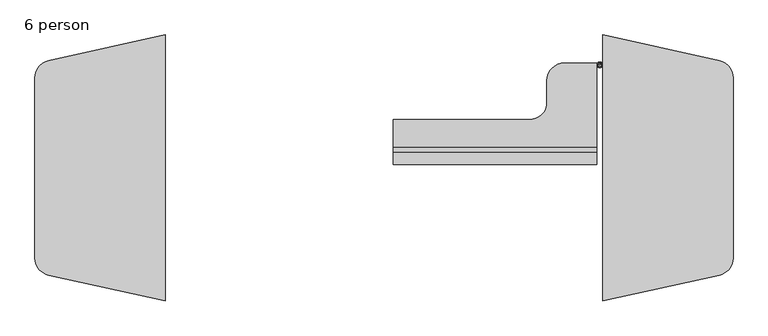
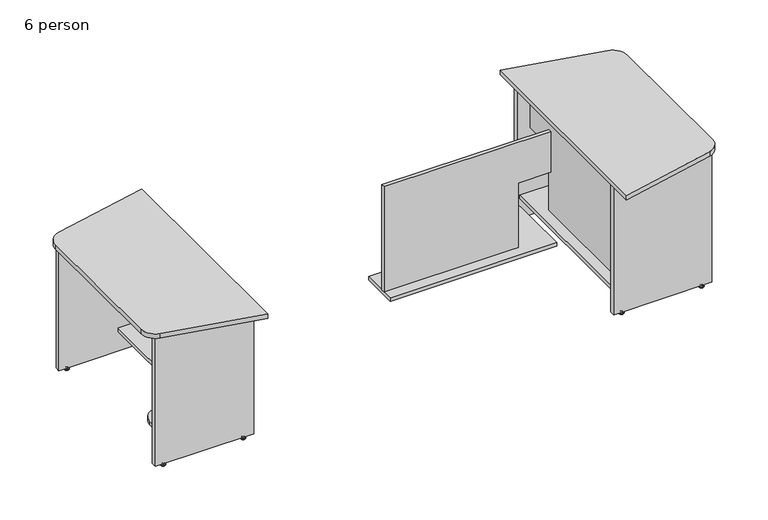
"""IFC4 building model written with IfcOpenShell, lengths in millimetres: furniture geometry, Nova Solutions - Collaboration Table - Boat_4-6 person : 6 person."""

from ifc_helpers import new_model, si_unit, point, frame, frame_2d, origin, place, context, project, spatial, polyline, circle_curve, ellipse_curve, trimmed, segment, composite_curve, outline, extrude, source, transform, mapped, element, save
from ifc_brep_helpers import plane_surface, cylinder_surface, revolved_surface, advanced_brep


def furniture_6_person_6b015cb4(model_context):
    return source(origin(), model_context, "Body", "SolidModel", [
        extrude(outline(polyline([(-430.1, 145.5), (-430.1, 736.3), (430.1, 736.3), (430.1, 507.4), (259.1, 507.4), (259.1, 145.5), (-430.1, 145.5)])), frame((995.2235048, 0.0, 0.0), z_axis=(1.0, 0.0, 0.0), x_axis=(0.0, 1.0, 0.0)), (0.0, 0.0, 1.0), 19.2),
        extrude(outline(composite_curve([segment(polyline([(939.9235048, -430.1), (939.9235048, 430.1), (1383.0860048, 430.1), (1383.0860048, 290.3)]), True, "CONTINUOUS"), segment(trimmed(circle_curve(frame_2d((1306.8860048, 290.3)), 76.2), [point((1383.0860048, 290.3))], [point((1306.8860048, 214.1))], False, "CARTESIAN"), True, "CONTINUOUS"), segment(polyline([(1306.8860048, 214.1), (1212.4235048, 214.1)]), True, "CONTINUOUS"), segment(trimmed(circle_curve(frame_2d((1212.4235048, 137.9)), 76.2), [point((1212.4235048, 214.1))], [point((1136.2235048, 137.9))], True, "CARTESIAN"), True, "CONTINUOUS"), segment(polyline([(1136.2235048, 137.9), (1136.2235048, -430.1), (939.9235048, -430.1)]), True, "CONTINUOUS")], self_intersect=False)), frame((0.0, 0.0, 126.3), z_axis=(0.0, 0.0, 1.0), x_axis=(1.0, 0.0, 0.0)), (0.0, 0.0, 1.0), 19.2),
        advanced_brep(
        [(1400.5094423, -449.6276506, 11.1125), (1400.5094423, -442.95, 11.1125), (1400.5094423, -436.2723494, 11.1125), (1400.5094423, -449.6276506, 9.525), (1400.5094423, -436.2723494, 9.525), (1400.5094423, -454.8355135, 4.7748687), (1400.5094423, -431.0644865, 4.7748687), (1400.5094423, -455.6966506, 3.989419), (1400.5094423, -430.2033494, 3.989419), (1400.5094423, -455.6966506, 3.175), (1400.5094423, -430.2033494, 3.175), (1400.5094423, -454.845912, 0.0), (1400.5094423, -431.0540881, 0.0), (1400.5094423, -442.95, 0.0)],
        [
            (0, 1),
            (1, 2),
            (2, 0, circle_curve(frame((1400.5094423, -442.95, 11.1125), z_axis=(0.0, 0.0, 1.0), x_axis=(0.0, 1.0, 0.0)), 6.6776506)),
            (0, 2, circle_curve(frame((1400.5094423, -442.95, 11.1125), z_axis=(0.0, 0.0, 1.0), x_axis=(0.0, 1.0, 0.0)), 6.6776506)),
            (3, 0),
            (2, 4),
            (4, 3, circle_curve(frame((1400.5094423, -442.95, 9.525), z_axis=(0.0, 0.0, 1.0), x_axis=(0.0, 1.0, 0.0)), 6.6776506)),
            (3, 4, circle_curve(frame((1400.5094423, -442.95, 9.525), z_axis=(0.0, 0.0, 1.0), x_axis=(0.0, 1.0, 0.0)), 6.6776506)),
            (5, 3, circle_curve(frame((1400.5094423, -455.8820627, 11.1521822), z_axis=(1.0, 0.0, 0.0), x_axis=(0.0, 1.0, 0.0)), 6.462615)),
            (4, 6, circle_curve(frame((1400.5094423, -430.0179373, 11.1521822), z_axis=(1.0, 0.0, 0.0), x_axis=(0.0, -1.0, 0.0)), 6.462615)),
            (6, 5, circle_curve(frame((1400.5094423, -442.95, 4.7748687), z_axis=(0.0, 0.0, 1.0), x_axis=(0.0, 1.0, 0.0)), 11.8855135)),
            (5, 6, circle_curve(frame((1400.5094423, -442.95, 4.7748687), z_axis=(0.0, 0.0, 1.0), x_axis=(0.0, 1.0, 0.0)), 11.8855135)),
            (7, 5, circle_curve(frame((1400.5094423, -454.6624632, 3.7203591), z_axis=(-1.0, 0.0, 0.0), x_axis=(0.0, 1.0, 0.0)), 1.0686145)),
            (6, 8, circle_curve(frame((1400.5094423, -431.2375368, 3.7203591), z_axis=(-1.0, 0.0, 0.0), x_axis=(0.0, -1.0, 0.0)), 1.0686145)),
            (8, 7, circle_curve(frame((1400.5094423, -442.95, 3.989419), z_axis=(0.0, 0.0, 1.0), x_axis=(0.0, 1.0, 0.0)), 12.7466506)),
            (7, 8, circle_curve(frame((1400.5094423, -442.95, 3.989419), z_axis=(0.0, 0.0, 1.0), x_axis=(0.0, 1.0, 0.0)), 12.7466506)),
            (9, 7),
            (8, 10),
            (10, 9, circle_curve(frame((1400.5094423, -442.95, 3.175), z_axis=(0.0, 0.0, 1.0), x_axis=(0.0, 1.0, 0.0)), 12.7466506)),
            (9, 10, circle_curve(frame((1400.5094423, -442.95, 3.175), z_axis=(0.0, 0.0, 1.0), x_axis=(0.0, 1.0, 0.0)), 12.7466506)),
            (11, 9),
            (10, 12),
            (12, 11, circle_curve(frame((1400.5094423, -442.95, 0.0), z_axis=(0.0, 0.0, 1.0), x_axis=(0.0, 1.0, 0.0)), 11.8959119)),
            (11, 12, circle_curve(frame((1400.5094423, -442.95, 0.0), z_axis=(0.0, 0.0, 1.0), x_axis=(0.0, 1.0, 0.0)), 11.8959119)),
            (13, 11),
            (12, 13),
        ],
        [
            plane_surface(frame((1400.5094423, -442.95, 11.1125), z_axis=(0.0, 0.0, 1.0), x_axis=(0.0, 1.0, 0.0))),
            cylinder_surface(frame((1400.5094423, -442.95, 43.2095994), z_axis=(0.0, 0.0, -1.0), x_axis=(0.0, 1.0, 0.0)), 6.6776506),
            revolved_surface(trimmed(ellipse_curve(frame((1400.5094423, -430.0179373, 11.1521822), z_axis=(1.0, 0.0, 0.0), x_axis=(0.0, -1.0, 0.0)), 6.462615, 6.462615), [point((1400.5094423, -436.2723494, 9.525))], [point((1400.5094423, -431.0644865, 4.7748687))], True, "CARTESIAN"), (1400.5094423, -442.95, 43.2095994), (0.0, 0.0, -1.0)),
            revolved_surface(trimmed(ellipse_curve(frame((1400.5094423, -431.2375368, 3.7203591), z_axis=(-1.0, 0.0, 0.0), x_axis=(0.0, -1.0, 0.0)), 1.0686145, 1.0686145), [point((1400.5094423, -431.0644865, 4.7748687))], [point((1400.5094423, -430.2033494, 3.989419))], True, "CARTESIAN"), (1400.5094423, -442.95, 43.2095994), (0.0, 0.0, -1.0)),
            cylinder_surface(frame((1400.5094423, -442.95, 43.2095994), z_axis=(0.0, 0.0, -1.0), x_axis=(0.0, 1.0, 0.0)), 12.7466506),
            revolved_surface(polyline([(1400.5094423, -430.2033494, 3.175), (1400.5094423, -431.0540881, 0.0)]), (1400.5094423, -442.95, 43.2095994), (0.0, 0.0, -1.0)),
            plane_surface(frame((1400.5094423, -442.95, 0.0), z_axis=(0.0, 0.0, -1.0), x_axis=(0.0, 1.0, 0.0))),
        ],
        [
            (0, [[1, 2, 3]]),
            (0, [[-2, -1, 4]]),
            (1, [[5, -3, 6, 7]]),
            (1, [[-6, -4, -5, 8]]),
            (2, [[9, -7, 10, 11]]),
            (2, [[-10, -8, -9, 12]]),
            (3, [[13, -11, 14, 15]]),
            (3, [[-14, -12, -13, 16]]),
            (4, [[17, -15, 18, 19]]),
            (4, [[-18, -16, -17, 20]]),
            (5, [[21, -19, 22, 23]]),
            (5, [[-22, -20, -21, 24]]),
            (6, [[25, -23, 26]]),
            (6, [[-26, -24, -25]]),
        ],
    ),
        advanced_brep(
        [(976.2375673, -449.6276506, 11.1125), (976.2375673, -442.95, 11.1125), (976.2375673, -436.2723494, 11.1125), (976.2375673, -449.6276506, 9.525), (976.2375673, -436.2723494, 9.525), (976.2375673, -454.8355135, 4.7748687), (976.2375673, -431.0644865, 4.7748687), (976.2375673, -455.6966506, 3.989419), (976.2375673, -430.2033494, 3.989419), (976.2375673, -455.6966506, 3.175), (976.2375673, -430.2033494, 3.175), (976.2375673, -454.845912, 0.0), (976.2375673, -431.0540881, 0.0), (976.2375673, -442.95, 0.0)],
        [
            (0, 1),
            (1, 2),
            (2, 0, circle_curve(frame((976.2375673, -442.95, 11.1125), z_axis=(0.0, 0.0, 1.0), x_axis=(0.0, 1.0, 0.0)), 6.6776506)),
            (0, 2, circle_curve(frame((976.2375673, -442.95, 11.1125), z_axis=(0.0, 0.0, 1.0), x_axis=(0.0, 1.0, 0.0)), 6.6776506)),
            (3, 0),
            (2, 4),
            (4, 3, circle_curve(frame((976.2375673, -442.95, 9.525), z_axis=(0.0, 0.0, 1.0), x_axis=(0.0, 1.0, 0.0)), 6.6776506)),
            (3, 4, circle_curve(frame((976.2375673, -442.95, 9.525), z_axis=(0.0, 0.0, 1.0), x_axis=(0.0, 1.0, 0.0)), 6.6776506)),
            (5, 3, circle_curve(frame((976.2375673, -455.8820627, 11.1521822), z_axis=(1.0, 0.0, 0.0), x_axis=(0.0, 1.0, 0.0)), 6.462615)),
            (4, 6, circle_curve(frame((976.2375673, -430.0179373, 11.1521822), z_axis=(1.0, 0.0, 0.0), x_axis=(0.0, -1.0, 0.0)), 6.462615)),
            (6, 5, circle_curve(frame((976.2375673, -442.95, 4.7748687), z_axis=(0.0, 0.0, 1.0), x_axis=(0.0, 1.0, 0.0)), 11.8855135)),
            (5, 6, circle_curve(frame((976.2375673, -442.95, 4.7748687), z_axis=(0.0, 0.0, 1.0), x_axis=(0.0, 1.0, 0.0)), 11.8855135)),
            (7, 5, circle_curve(frame((976.2375673, -454.6624632, 3.7203591), z_axis=(-1.0, 0.0, 0.0), x_axis=(0.0, 1.0, 0.0)), 1.0686145)),
            (6, 8, circle_curve(frame((976.2375673, -431.2375368, 3.7203591), z_axis=(-1.0, 0.0, 0.0), x_axis=(0.0, -1.0, 0.0)), 1.0686145)),
            (8, 7, circle_curve(frame((976.2375673, -442.95, 3.989419), z_axis=(0.0, 0.0, 1.0), x_axis=(0.0, 1.0, 0.0)), 12.7466506)),
            (7, 8, circle_curve(frame((976.2375673, -442.95, 3.989419), z_axis=(0.0, 0.0, 1.0), x_axis=(0.0, 1.0, 0.0)), 12.7466506)),
            (9, 7),
            (8, 10),
            (10, 9, circle_curve(frame((976.2375673, -442.95, 3.175), z_axis=(0.0, 0.0, 1.0), x_axis=(0.0, 1.0, 0.0)), 12.7466506)),
            (9, 10, circle_curve(frame((976.2375673, -442.95, 3.175), z_axis=(0.0, 0.0, 1.0), x_axis=(0.0, 1.0, 0.0)), 12.7466506)),
            (11, 9),
            (10, 12),
            (12, 11, circle_curve(frame((976.2375673, -442.95, 0.0), z_axis=(0.0, 0.0, 1.0), x_axis=(0.0, 1.0, 0.0)), 11.8959119)),
            (11, 12, circle_curve(frame((976.2375673, -442.95, 0.0), z_axis=(0.0, 0.0, 1.0), x_axis=(0.0, 1.0, 0.0)), 11.8959119)),
            (13, 11),
            (12, 13),
        ],
        [
            plane_surface(frame((976.2375673, -442.95, 11.1125), z_axis=(0.0, 0.0, 1.0), x_axis=(0.0, 1.0, 0.0))),
            cylinder_surface(frame((976.2375673, -442.95, 43.2095994), z_axis=(0.0, 0.0, -1.0), x_axis=(0.0, 1.0, 0.0)), 6.6776506),
            revolved_surface(trimmed(ellipse_curve(frame((976.2375673, -430.0179373, 11.1521822), z_axis=(1.0, 0.0, 0.0), x_axis=(0.0, -1.0, 0.0)), 6.462615, 6.462615), [point((976.2375673, -436.2723494, 9.525))], [point((976.2375673, -431.0644865, 4.7748687))], True, "CARTESIAN"), (976.2375673, -442.95, 43.2095994), (0.0, 0.0, -1.0)),
            revolved_surface(trimmed(ellipse_curve(frame((976.2375673, -431.2375368, 3.7203591), z_axis=(-1.0, 0.0, 0.0), x_axis=(0.0, -1.0, 0.0)), 1.0686145, 1.0686145), [point((976.2375673, -431.0644865, 4.7748687))], [point((976.2375673, -430.2033494, 3.989419))], True, "CARTESIAN"), (976.2375673, -442.95, 43.2095994), (0.0, 0.0, -1.0)),
            cylinder_surface(frame((976.2375673, -442.95, 43.2095994), z_axis=(0.0, 0.0, -1.0), x_axis=(0.0, 1.0, 0.0)), 12.7466506),
            revolved_surface(polyline([(976.2375673, -430.2033494, 3.175), (976.2375673, -431.0540881, 0.0)]), (976.2375673, -442.95, 43.2095994), (0.0, 0.0, -1.0)),
            plane_surface(frame((976.2375673, -442.95, 0.0), z_axis=(0.0, 0.0, -1.0), x_axis=(0.0, 1.0, 0.0))),
        ],
        [
            (0, [[1, 2, 3]]),
            (0, [[-2, -1, 4]]),
            (1, [[5, -3, 6, 7]]),
            (1, [[-6, -4, -5, 8]]),
            (2, [[9, -7, 10, 11]]),
            (2, [[-10, -8, -9, 12]]),
            (3, [[13, -11, 14, 15]]),
            (3, [[-14, -12, -13, 16]]),
            (4, [[17, -15, 18, 19]]),
            (4, [[-18, -16, -17, 20]]),
            (5, [[21, -19, 22, 23]]),
            (5, [[-22, -20, -21, 24]]),
            (6, [[25, -23, 26]]),
            (6, [[-26, -24, -25]]),
        ],
    ),
        extrude(outline(polyline([(927.2235048, -455.8), (927.2235048, -430.1), (1449.5235048, -430.1), (1449.5235048, -455.8), (927.2235048, -455.8)])), frame((0.0, 0.0, 15.6), z_axis=(0.0, 0.0, 1.0), x_axis=(1.0, 0.0, 0.0)), (0.0, 0.0, 1.0), 720.7),
        advanced_brep(
        [(1400.5094423, 449.6276506, 11.1125), (1400.5094423, 436.2723494, 11.1125), (1400.5094423, 442.95, 11.1125), (1400.5094423, 449.6276506, 9.525), (1400.5094423, 436.2723494, 9.525), (1400.5094423, 454.8355135, 4.7748687), (1400.5094423, 431.0644865, 4.7748687), (1400.5094423, 455.6966506, 3.989419), (1400.5094423, 430.2033494, 3.989419), (1400.5094423, 455.6966506, 3.175), (1400.5094423, 430.2033494, 3.175), (1400.5094423, 454.8459119, 0.0), (1400.5094423, 431.054088, 0.0), (1400.5094423, 442.95, 0.0)],
        [
            (0, 1, circle_curve(frame((1400.5094423, 442.95, 11.1125), z_axis=(0.0, 0.0, 1.0), x_axis=(0.0, -1.0, 0.0)), 6.6776506)),
            (1, 2),
            (2, 0),
            (1, 0, circle_curve(frame((1400.5094423, 442.95, 11.1125), z_axis=(0.0, 0.0, 1.0), x_axis=(0.0, -1.0, 0.0)), 6.6776506)),
            (3, 4, circle_curve(frame((1400.5094423, 442.95, 9.525), z_axis=(0.0, 0.0, 1.0), x_axis=(0.0, -1.0, 0.0)), 6.6776506)),
            (4, 1),
            (0, 3),
            (4, 3, circle_curve(frame((1400.5094423, 442.95, 9.525), z_axis=(0.0, 0.0, 1.0), x_axis=(0.0, -1.0, 0.0)), 6.6776506)),
            (5, 6, circle_curve(frame((1400.5094423, 442.95, 4.7748687), z_axis=(0.0, 0.0, 1.0), x_axis=(0.0, -1.0, 0.0)), 11.8855135)),
            (6, 4, circle_curve(frame((1400.5094423, 430.0179373, 11.1521822), z_axis=(1.0, 0.0, 0.0), x_axis=(0.0, 1.0, 0.0)), 6.462615)),
            (3, 5, circle_curve(frame((1400.5094423, 455.8820627, 11.1521822), z_axis=(1.0, 0.0, 0.0), x_axis=(0.0, -1.0, 0.0)), 6.462615)),
            (6, 5, circle_curve(frame((1400.5094423, 442.95, 4.7748687), z_axis=(0.0, 0.0, 1.0), x_axis=(0.0, -1.0, 0.0)), 11.8855135)),
            (7, 8, circle_curve(frame((1400.5094423, 442.95, 3.989419), z_axis=(0.0, 0.0, 1.0), x_axis=(0.0, -1.0, 0.0)), 12.7466506)),
            (8, 6, circle_curve(frame((1400.5094423, 431.2375368, 3.7203591), z_axis=(-1.0, 0.0, 0.0), x_axis=(0.0, 1.0, 0.0)), 1.0686145)),
            (5, 7, circle_curve(frame((1400.5094423, 454.6624632, 3.7203591), z_axis=(-1.0, 0.0, 0.0), x_axis=(0.0, -1.0, 0.0)), 1.0686145)),
            (8, 7, circle_curve(frame((1400.5094423, 442.95, 3.989419), z_axis=(0.0, 0.0, 1.0), x_axis=(0.0, -1.0, 0.0)), 12.7466506)),
            (9, 10, circle_curve(frame((1400.5094423, 442.95, 3.175), z_axis=(0.0, 0.0, 1.0), x_axis=(0.0, -1.0, 0.0)), 12.7466506)),
            (10, 8),
            (7, 9),
            (10, 9, circle_curve(frame((1400.5094423, 442.95, 3.175), z_axis=(0.0, 0.0, 1.0), x_axis=(0.0, -1.0, 0.0)), 12.7466506)),
            (11, 12, circle_curve(frame((1400.5094423, 442.95, 0.0), z_axis=(0.0, 0.0, 1.0), x_axis=(0.0, -1.0, 0.0)), 11.8959119)),
            (12, 10),
            (9, 11),
            (12, 11, circle_curve(frame((1400.5094423, 442.95, 0.0), z_axis=(0.0, 0.0, 1.0), x_axis=(0.0, -1.0, 0.0)), 11.8959119)),
            (13, 12),
            (11, 13),
        ],
        [
            plane_surface(frame((1400.5094423, 442.95, 11.1125), z_axis=(0.0, 0.0, 1.0), x_axis=(0.0, -1.0, 0.0))),
            cylinder_surface(frame((1400.5094423, 442.95, 43.2095994), z_axis=(0.0, 0.0, -1.0), x_axis=(0.0, -1.0, 0.0)), 6.6776506),
            revolved_surface(trimmed(ellipse_curve(frame((1400.5094423, 430.0179373, 11.1521822), z_axis=(-1.0, 0.0, 0.0), x_axis=(0.0, 1.0, 0.0)), 6.462615, 6.462615), [point((1400.5094423, 436.2723494, 9.525))], [point((1400.5094423, 431.0644865, 4.7748687))], True, "CARTESIAN"), (1400.5094423, 442.95, 43.2095994), (0.0, 0.0, -1.0)),
            revolved_surface(trimmed(ellipse_curve(frame((1400.5094423, 431.2375368, 3.7203591), z_axis=(1.0, 0.0, 0.0), x_axis=(0.0, 1.0, 0.0)), 1.0686145, 1.0686145), [point((1400.5094423, 431.0644865, 4.7748687))], [point((1400.5094423, 430.2033494, 3.989419))], True, "CARTESIAN"), (1400.5094423, 442.95, 43.2095994), (0.0, 0.0, -1.0)),
            cylinder_surface(frame((1400.5094423, 442.95, 43.2095994), z_axis=(0.0, 0.0, -1.0), x_axis=(0.0, -1.0, 0.0)), 12.7466506),
            revolved_surface(polyline([(1400.5094423, 430.2033494, 3.175), (1400.5094423, 431.054088, 0.0)]), (1400.5094423, 442.95, 43.2095994), (0.0, 0.0, -1.0)),
            plane_surface(frame((1400.5094423, 442.95, 0.0), z_axis=(0.0, 0.0, -1.0), x_axis=(0.0, -1.0, 0.0))),
        ],
        [
            (0, [[1, 2, 3]]),
            (0, [[4, -3, -2]]),
            (1, [[5, 6, -1, 7]]),
            (1, [[8, -7, -4, -6]]),
            (2, [[9, 10, -5, 11]]),
            (2, [[12, -11, -8, -10]]),
            (3, [[13, 14, -9, 15]]),
            (3, [[16, -15, -12, -14]]),
            (4, [[17, 18, -13, 19]]),
            (4, [[20, -19, -16, -18]]),
            (5, [[21, 22, -17, 23]]),
            (5, [[24, -23, -20, -22]]),
            (6, [[25, -21, 26]]),
            (6, [[-26, -24, -25]]),
        ],
    ),
        advanced_brep(
        [(976.2375673, 449.6276506, 11.1125), (976.2375673, 436.2723494, 11.1125), (976.2375673, 442.95, 11.1125), (976.2375673, 449.6276506, 9.525), (976.2375673, 436.2723494, 9.525), (976.2375673, 454.8355135, 4.7748687), (976.2375673, 431.0644865, 4.7748687), (976.2375673, 455.6966506, 3.989419), (976.2375673, 430.2033494, 3.989419), (976.2375673, 455.6966506, 3.175), (976.2375673, 430.2033494, 3.175), (976.2375673, 454.8459119, 0.0), (976.2375673, 431.054088, 0.0), (976.2375673, 442.95, 0.0)],
        [
            (0, 1, circle_curve(frame((976.2375673, 442.95, 11.1125), z_axis=(0.0, 0.0, 1.0), x_axis=(0.0, -1.0, 0.0)), 6.6776506)),
            (1, 2),
            (2, 0),
            (1, 0, circle_curve(frame((976.2375673, 442.95, 11.1125), z_axis=(0.0, 0.0, 1.0), x_axis=(0.0, -1.0, 0.0)), 6.6776506)),
            (3, 4, circle_curve(frame((976.2375673, 442.95, 9.525), z_axis=(0.0, 0.0, 1.0), x_axis=(0.0, -1.0, 0.0)), 6.6776506)),
            (4, 1),
            (0, 3),
            (4, 3, circle_curve(frame((976.2375673, 442.95, 9.525), z_axis=(0.0, 0.0, 1.0), x_axis=(0.0, -1.0, 0.0)), 6.6776506)),
            (5, 6, circle_curve(frame((976.2375673, 442.95, 4.7748687), z_axis=(0.0, 0.0, 1.0), x_axis=(0.0, -1.0, 0.0)), 11.8855135)),
            (6, 4, circle_curve(frame((976.2375673, 430.0179373, 11.1521822), z_axis=(1.0, 0.0, 0.0), x_axis=(0.0, 1.0, 0.0)), 6.462615)),
            (3, 5, circle_curve(frame((976.2375673, 455.8820627, 11.1521822), z_axis=(1.0, 0.0, 0.0), x_axis=(0.0, -1.0, 0.0)), 6.462615)),
            (6, 5, circle_curve(frame((976.2375673, 442.95, 4.7748687), z_axis=(0.0, 0.0, 1.0), x_axis=(0.0, -1.0, 0.0)), 11.8855135)),
            (7, 8, circle_curve(frame((976.2375673, 442.95, 3.989419), z_axis=(0.0, 0.0, 1.0), x_axis=(0.0, -1.0, 0.0)), 12.7466506)),
            (8, 6, circle_curve(frame((976.2375673, 431.2375368, 3.7203591), z_axis=(-1.0, 0.0, 0.0), x_axis=(0.0, 1.0, 0.0)), 1.0686145)),
            (5, 7, circle_curve(frame((976.2375673, 454.6624632, 3.7203591), z_axis=(-1.0, 0.0, 0.0), x_axis=(0.0, -1.0, 0.0)), 1.0686145)),
            (8, 7, circle_curve(frame((976.2375673, 442.95, 3.989419), z_axis=(0.0, 0.0, 1.0), x_axis=(0.0, -1.0, 0.0)), 12.7466506)),
            (9, 10, circle_curve(frame((976.2375673, 442.95, 3.175), z_axis=(0.0, 0.0, 1.0), x_axis=(0.0, -1.0, 0.0)), 12.7466506)),
            (10, 8),
            (7, 9),
            (10, 9, circle_curve(frame((976.2375673, 442.95, 3.175), z_axis=(0.0, 0.0, 1.0), x_axis=(0.0, -1.0, 0.0)), 12.7466506)),
            (11, 12, circle_curve(frame((976.2375673, 442.95, 0.0), z_axis=(0.0, 0.0, 1.0), x_axis=(0.0, -1.0, 0.0)), 11.8959119)),
            (12, 10),
            (9, 11),
            (12, 11, circle_curve(frame((976.2375673, 442.95, 0.0), z_axis=(0.0, 0.0, 1.0), x_axis=(0.0, -1.0, 0.0)), 11.8959119)),
            (13, 12),
            (11, 13),
        ],
        [
            plane_surface(frame((976.2375673, 442.95, 11.1125), z_axis=(0.0, 0.0, 1.0), x_axis=(0.0, -1.0, 0.0))),
            cylinder_surface(frame((976.2375673, 442.95, 43.2095994), z_axis=(0.0, 0.0, -1.0), x_axis=(0.0, -1.0, 0.0)), 6.6776506),
            revolved_surface(trimmed(ellipse_curve(frame((976.2375673, 430.0179373, 11.1521822), z_axis=(-1.0, 0.0, 0.0), x_axis=(0.0, 1.0, 0.0)), 6.462615, 6.462615), [point((976.2375673, 436.2723494, 9.525))], [point((976.2375673, 431.0644865, 4.7748687))], True, "CARTESIAN"), (976.2375673, 442.95, 43.2095994), (0.0, 0.0, -1.0)),
            revolved_surface(trimmed(ellipse_curve(frame((976.2375673, 431.2375368, 3.7203591), z_axis=(1.0, 0.0, 0.0), x_axis=(0.0, 1.0, 0.0)), 1.0686145, 1.0686145), [point((976.2375673, 431.0644865, 4.7748687))], [point((976.2375673, 430.2033494, 3.989419))], True, "CARTESIAN"), (976.2375673, 442.95, 43.2095994), (0.0, 0.0, -1.0)),
            cylinder_surface(frame((976.2375673, 442.95, 43.2095994), z_axis=(0.0, 0.0, -1.0), x_axis=(0.0, -1.0, 0.0)), 12.7466506),
            revolved_surface(polyline([(976.2375673, 430.2033494, 3.175), (976.2375673, 431.054088, 0.0)]), (976.2375673, 442.95, 43.2095994), (0.0, 0.0, -1.0)),
            plane_surface(frame((976.2375673, 442.95, 0.0), z_axis=(0.0, 0.0, -1.0), x_axis=(0.0, -1.0, 0.0))),
        ],
        [
            (0, [[1, 2, 3]]),
            (0, [[4, -3, -2]]),
            (1, [[5, 6, -1, 7]]),
            (1, [[8, -7, -4, -6]]),
            (2, [[9, 10, -5, 11]]),
            (2, [[12, -11, -8, -10]]),
            (3, [[13, 14, -9, 15]]),
            (3, [[16, -15, -12, -14]]),
            (4, [[17, 18, -13, 19]]),
            (4, [[20, -19, -16, -18]]),
            (5, [[21, 22, -17, 23]]),
            (5, [[24, -23, -20, -22]]),
            (6, [[25, -21, 26]]),
            (6, [[-26, -24, -25]]),
        ],
    ),
        extrude(outline(polyline([(927.2235048, 455.8), (1449.5235048, 455.8), (1449.5235048, 430.1), (927.2235048, 430.1), (927.2235048, 455.8)])), frame((0.0, 0.0, 15.6), z_axis=(0.0, 0.0, 1.0), x_axis=(1.0, 0.0, 0.0)), (0.0, 0.0, 1.0), 720.7),
        extrude(outline(composite_curve([segment(polyline([(924.3235048, -579.5), (924.3235048, 579.5), (1429.989355, 467.3965799)]), True, "CONTINUOUS"), segment(trimmed(circle_curve(frame_2d((1413.3235048, 392.2217874)), 77.0), [point((1429.989355, 467.3965799))], [point((1490.3235048, 392.2217874))], False, "CARTESIAN"), True, "CONTINUOUS"), segment(polyline([(1490.3235048, 392.2217874), (1490.3235048, -392.2217874)]), True, "CONTINUOUS"), segment(trimmed(circle_curve(frame_2d((1413.3235048, -392.2217874)), 77.0), [point((1490.3235048, -392.2217874))], [point((1429.989355, -467.3965799))], False, "CARTESIAN"), True, "CONTINUOUS"), segment(polyline([(1429.989355, -467.3965799), (924.3235048, -579.5)]), True, "CONTINUOUS")], self_intersect=False)), frame((0.0, 0.0, 736.3), z_axis=(0.0, 0.0, 1.0), x_axis=(1.0, 0.0, 0.0)), (0.0, 0.0, 1.0), 25.7),
        extrude(outline(polyline([(430.1, 736.3), (430.1, 145.5), (-259.1, 145.5), (-259.1, 507.4), (-430.1, 507.4), (-430.1, 736.3), (430.1, 736.3)])), frame((-1069.3498676, 0.0, 0.0), z_axis=(1.0, 0.0, 0.0), x_axis=(0.0, 1.0, 0.0)), (0.0, 0.0, 1.0), 19.2),
        extrude(outline(composite_curve([segment(polyline([(-994.8498676, 430.1), (-994.8498676, -430.1), (-1438.0123676, -430.1), (-1438.0123676, -290.3)]), True, "CONTINUOUS"), segment(trimmed(circle_curve(frame_2d((-1361.8123676, -290.3)), 76.2), [point((-1438.0123676, -290.3))], [point((-1361.8123676, -214.1))], False, "CARTESIAN"), True, "CONTINUOUS"), segment(polyline([(-1361.8123676, -214.1), (-1267.3498676, -214.1)]), True, "CONTINUOUS"), segment(trimmed(circle_curve(frame_2d((-1267.3498676, -137.9)), 76.2), [point((-1267.3498676, -214.1))], [point((-1191.1498676, -137.9))], True, "CARTESIAN"), True, "CONTINUOUS"), segment(polyline([(-1191.1498676, -137.9), (-1191.1498676, 430.1), (-994.8498676, 430.1)]), True, "CONTINUOUS")], self_intersect=False)), frame((0.0, 0.0, 126.3), z_axis=(0.0, 0.0, 1.0), x_axis=(1.0, 0.0, 0.0)), (0.0, 0.0, 1.0), 19.2),
        advanced_brep(
        [(-1455.4358051, 449.6276506, 11.1125), (-1455.4358051, 442.95, 11.1125), (-1455.4358051, 436.2723494, 11.1125), (-1455.4358051, 449.6276506, 9.525), (-1455.4358051, 436.2723494, 9.525), (-1455.4358051, 454.8355135, 4.7748687), (-1455.4358051, 431.0644865, 4.7748687), (-1455.4358051, 455.6966506, 3.989419), (-1455.4358051, 430.2033494, 3.989419), (-1455.4358051, 455.6966506, 3.175), (-1455.4358051, 430.2033494, 3.175), (-1455.4358051, 454.8459119, 0.0), (-1455.4358051, 431.0540881, 0.0), (-1455.4358051, 442.95, 0.0)],
        [
            (0, 1),
            (1, 2),
            (2, 0, circle_curve(frame((-1455.4358051, 442.95, 11.1125), z_axis=(0.0, 0.0, 1.0), x_axis=(0.0, -1.0, 0.0)), 6.6776506)),
            (0, 2, circle_curve(frame((-1455.4358051, 442.95, 11.1125), z_axis=(0.0, 0.0, 1.0), x_axis=(0.0, -1.0, 0.0)), 6.6776506)),
            (3, 0),
            (2, 4),
            (4, 3, circle_curve(frame((-1455.4358051, 442.95, 9.525), z_axis=(0.0, 0.0, 1.0), x_axis=(0.0, -1.0, 0.0)), 6.6776506)),
            (3, 4, circle_curve(frame((-1455.4358051, 442.95, 9.525), z_axis=(0.0, 0.0, 1.0), x_axis=(0.0, -1.0, 0.0)), 6.6776506)),
            (5, 3, circle_curve(frame((-1455.4358051, 455.8820627, 11.1521822), z_axis=(-1.0, 0.0, 0.0), x_axis=(0.0, -1.0, 0.0)), 6.462615)),
            (4, 6, circle_curve(frame((-1455.4358051, 430.0179373, 11.1521822), z_axis=(-1.0, 0.0, 0.0), x_axis=(0.0, 1.0, 0.0)), 6.462615)),
            (6, 5, circle_curve(frame((-1455.4358051, 442.95, 4.7748687), z_axis=(0.0, 0.0, 1.0), x_axis=(0.0, -1.0, 0.0)), 11.8855135)),
            (5, 6, circle_curve(frame((-1455.4358051, 442.95, 4.7748687), z_axis=(0.0, 0.0, 1.0), x_axis=(0.0, -1.0, 0.0)), 11.8855135)),
            (7, 5, circle_curve(frame((-1455.4358051, 454.6624632, 3.7203591), z_axis=(1.0, 0.0, 0.0), x_axis=(0.0, -1.0, 0.0)), 1.0686145)),
            (6, 8, circle_curve(frame((-1455.4358051, 431.2375368, 3.7203591), z_axis=(1.0, 0.0, 0.0), x_axis=(0.0, 1.0, 0.0)), 1.0686145)),
            (8, 7, circle_curve(frame((-1455.4358051, 442.95, 3.989419), z_axis=(0.0, 0.0, 1.0), x_axis=(0.0, -1.0, 0.0)), 12.7466506)),
            (7, 8, circle_curve(frame((-1455.4358051, 442.95, 3.989419), z_axis=(0.0, 0.0, 1.0), x_axis=(0.0, -1.0, 0.0)), 12.7466506)),
            (9, 7),
            (8, 10),
            (10, 9, circle_curve(frame((-1455.4358051, 442.95, 3.175), z_axis=(0.0, 0.0, 1.0), x_axis=(0.0, -1.0, 0.0)), 12.7466506)),
            (9, 10, circle_curve(frame((-1455.4358051, 442.95, 3.175), z_axis=(0.0, 0.0, 1.0), x_axis=(0.0, -1.0, 0.0)), 12.7466506)),
            (11, 9),
            (10, 12),
            (12, 11, circle_curve(frame((-1455.4358051, 442.95, 0.0), z_axis=(0.0, 0.0, 1.0), x_axis=(0.0, -1.0, 0.0)), 11.8959119)),
            (11, 12, circle_curve(frame((-1455.4358051, 442.95, 0.0), z_axis=(0.0, 0.0, 1.0), x_axis=(0.0, -1.0, 0.0)), 11.8959119)),
            (13, 11),
            (12, 13),
        ],
        [
            plane_surface(frame((-1455.4358051, 442.95, 11.1125), z_axis=(0.0, 0.0, 1.0), x_axis=(0.0, -1.0, 0.0))),
            cylinder_surface(frame((-1455.4358051, 442.95, 43.2095994), z_axis=(0.0, 0.0, -1.0), x_axis=(0.0, -1.0, 0.0)), 6.6776506),
            revolved_surface(trimmed(ellipse_curve(frame((-1455.4358051, 430.0179373, 11.1521822), z_axis=(-1.0, 0.0, 0.0), x_axis=(0.0, 1.0, 0.0)), 6.462615, 6.462615), [point((-1455.4358051, 436.2723494, 9.525))], [point((-1455.4358051, 431.0644865, 4.7748687))], True, "CARTESIAN"), (-1455.4358051, 442.95, 43.2095994), (0.0, 0.0, -1.0)),
            revolved_surface(trimmed(ellipse_curve(frame((-1455.4358051, 431.2375368, 3.7203591), z_axis=(1.0, 0.0, 0.0), x_axis=(0.0, 1.0, 0.0)), 1.0686145, 1.0686145), [point((-1455.4358051, 431.0644865, 4.7748687))], [point((-1455.4358051, 430.2033494, 3.989419))], True, "CARTESIAN"), (-1455.4358051, 442.95, 43.2095994), (0.0, 0.0, -1.0)),
            cylinder_surface(frame((-1455.4358051, 442.95, 43.2095994), z_axis=(0.0, 0.0, -1.0), x_axis=(0.0, -1.0, 0.0)), 12.7466506),
            revolved_surface(polyline([(-1455.4358051, 430.2033494, 3.175), (-1455.4358051, 431.0540881, 0.0)]), (-1455.4358051, 442.95, 43.2095994), (0.0, 0.0, -1.0)),
            plane_surface(frame((-1455.4358051, 442.95, 0.0), z_axis=(0.0, 0.0, -1.0), x_axis=(0.0, -1.0, 0.0))),
        ],
        [
            (0, [[1, 2, 3]]),
            (0, [[-2, -1, 4]]),
            (1, [[5, -3, 6, 7]]),
            (1, [[-6, -4, -5, 8]]),
            (2, [[9, -7, 10, 11]]),
            (2, [[-10, -8, -9, 12]]),
            (3, [[13, -11, 14, 15]]),
            (3, [[-14, -12, -13, 16]]),
            (4, [[17, -15, 18, 19]]),
            (4, [[-18, -16, -17, 20]]),
            (5, [[21, -19, 22, 23]]),
            (5, [[-22, -20, -21, 24]]),
            (6, [[25, -23, 26]]),
            (6, [[-26, -24, -25]]),
        ],
    ),
        advanced_brep(
        [(-1031.1639301, 449.6276506, 11.1125), (-1031.1639301, 442.95, 11.1125), (-1031.1639301, 436.2723494, 11.1125), (-1031.1639301, 449.6276506, 9.525), (-1031.1639301, 436.2723494, 9.525), (-1031.1639301, 454.8355135, 4.7748687), (-1031.1639301, 431.0644865, 4.7748687), (-1031.1639301, 455.6966506, 3.989419), (-1031.1639301, 430.2033494, 3.989419), (-1031.1639301, 455.6966506, 3.175), (-1031.1639301, 430.2033494, 3.175), (-1031.1639301, 454.8459119, 0.0), (-1031.1639301, 431.0540881, 0.0), (-1031.1639301, 442.95, 0.0)],
        [
            (0, 1),
            (1, 2),
            (2, 0, circle_curve(frame((-1031.1639301, 442.95, 11.1125), z_axis=(0.0, 0.0, 1.0), x_axis=(0.0, -1.0, 0.0)), 6.6776506)),
            (0, 2, circle_curve(frame((-1031.1639301, 442.95, 11.1125), z_axis=(0.0, 0.0, 1.0), x_axis=(0.0, -1.0, 0.0)), 6.6776506)),
            (3, 0),
            (2, 4),
            (4, 3, circle_curve(frame((-1031.1639301, 442.95, 9.525), z_axis=(0.0, 0.0, 1.0), x_axis=(0.0, -1.0, 0.0)), 6.6776506)),
            (3, 4, circle_curve(frame((-1031.1639301, 442.95, 9.525), z_axis=(0.0, 0.0, 1.0), x_axis=(0.0, -1.0, 0.0)), 6.6776506)),
            (5, 3, circle_curve(frame((-1031.1639301, 455.8820627, 11.1521822), z_axis=(-1.0, 0.0, 0.0), x_axis=(0.0, -1.0, 0.0)), 6.462615)),
            (4, 6, circle_curve(frame((-1031.1639301, 430.0179373, 11.1521822), z_axis=(-1.0, 0.0, 0.0), x_axis=(0.0, 1.0, 0.0)), 6.462615)),
            (6, 5, circle_curve(frame((-1031.1639301, 442.95, 4.7748687), z_axis=(0.0, 0.0, 1.0), x_axis=(0.0, -1.0, 0.0)), 11.8855135)),
            (5, 6, circle_curve(frame((-1031.1639301, 442.95, 4.7748687), z_axis=(0.0, 0.0, 1.0), x_axis=(0.0, -1.0, 0.0)), 11.8855135)),
            (7, 5, circle_curve(frame((-1031.1639301, 454.6624632, 3.7203591), z_axis=(1.0, 0.0, 0.0), x_axis=(0.0, -1.0, 0.0)), 1.0686145)),
            (6, 8, circle_curve(frame((-1031.1639301, 431.2375368, 3.7203591), z_axis=(1.0, 0.0, 0.0), x_axis=(0.0, 1.0, 0.0)), 1.0686145)),
            (8, 7, circle_curve(frame((-1031.1639301, 442.95, 3.989419), z_axis=(0.0, 0.0, 1.0), x_axis=(0.0, -1.0, 0.0)), 12.7466506)),
            (7, 8, circle_curve(frame((-1031.1639301, 442.95, 3.989419), z_axis=(0.0, 0.0, 1.0), x_axis=(0.0, -1.0, 0.0)), 12.7466506)),
            (9, 7),
            (8, 10),
            (10, 9, circle_curve(frame((-1031.1639301, 442.95, 3.175), z_axis=(0.0, 0.0, 1.0), x_axis=(0.0, -1.0, 0.0)), 12.7466506)),
            (9, 10, circle_curve(frame((-1031.1639301, 442.95, 3.175), z_axis=(0.0, 0.0, 1.0), x_axis=(0.0, -1.0, 0.0)), 12.7466506)),
            (11, 9),
            (10, 12),
            (12, 11, circle_curve(frame((-1031.1639301, 442.95, 0.0), z_axis=(0.0, 0.0, 1.0), x_axis=(0.0, -1.0, 0.0)), 11.8959119)),
            (11, 12, circle_curve(frame((-1031.1639301, 442.95, 0.0), z_axis=(0.0, 0.0, 1.0), x_axis=(0.0, -1.0, 0.0)), 11.8959119)),
            (13, 11),
            (12, 13),
        ],
        [
            plane_surface(frame((-1031.1639301, 442.95, 11.1125), z_axis=(0.0, 0.0, 1.0), x_axis=(0.0, -1.0, 0.0))),
            cylinder_surface(frame((-1031.1639301, 442.95, 43.2095994), z_axis=(0.0, 0.0, -1.0), x_axis=(0.0, -1.0, 0.0)), 6.6776506),
            revolved_surface(trimmed(ellipse_curve(frame((-1031.1639301, 430.0179373, 11.1521822), z_axis=(-1.0, 0.0, 0.0), x_axis=(0.0, 1.0, 0.0)), 6.462615, 6.462615), [point((-1031.1639301, 436.2723494, 9.525))], [point((-1031.1639301, 431.0644865, 4.7748687))], True, "CARTESIAN"), (-1031.1639301, 442.95, 43.2095994), (0.0, 0.0, -1.0)),
            revolved_surface(trimmed(ellipse_curve(frame((-1031.1639301, 431.2375368, 3.7203591), z_axis=(1.0, 0.0, 0.0), x_axis=(0.0, 1.0, 0.0)), 1.0686145, 1.0686145), [point((-1031.1639301, 431.0644865, 4.7748687))], [point((-1031.1639301, 430.2033494, 3.989419))], True, "CARTESIAN"), (-1031.1639301, 442.95, 43.2095994), (0.0, 0.0, -1.0)),
            cylinder_surface(frame((-1031.1639301, 442.95, 43.2095994), z_axis=(0.0, 0.0, -1.0), x_axis=(0.0, -1.0, 0.0)), 12.7466506),
            revolved_surface(polyline([(-1031.1639301, 430.2033494, 3.175), (-1031.1639301, 431.0540881, 0.0)]), (-1031.1639301, 442.95, 43.2095994), (0.0, 0.0, -1.0)),
            plane_surface(frame((-1031.1639301, 442.95, 0.0), z_axis=(0.0, 0.0, -1.0), x_axis=(0.0, -1.0, 0.0))),
        ],
        [
            (0, [[1, 2, 3]]),
            (0, [[-2, -1, 4]]),
            (1, [[5, -3, 6, 7]]),
            (1, [[-6, -4, -5, 8]]),
            (2, [[9, -7, 10, 11]]),
            (2, [[-10, -8, -9, 12]]),
            (3, [[13, -11, 14, 15]]),
            (3, [[-14, -12, -13, 16]]),
            (4, [[17, -15, 18, 19]]),
            (4, [[-18, -16, -17, 20]]),
            (5, [[21, -19, 22, 23]]),
            (5, [[-22, -20, -21, 24]]),
            (6, [[25, -23, 26]]),
            (6, [[-26, -24, -25]]),
        ],
    ),
        extrude(outline(polyline([(-982.1498676, 455.8), (-982.1498676, 430.1), (-1504.4498676, 430.1), (-1504.4498676, 455.8), (-982.1498676, 455.8)])), frame((0.0, 0.0, 15.6), z_axis=(0.0, 0.0, 1.0), x_axis=(1.0, 0.0, 0.0)), (0.0, 0.0, 1.0), 720.7),
        advanced_brep(
        [(-1455.4358051, -449.6276506, 11.1125), (-1455.4358051, -436.2723494, 11.1125), (-1455.4358051, -442.95, 11.1125), (-1455.4358051, -449.6276506, 9.525), (-1455.4358051, -436.2723494, 9.525), (-1455.4358051, -454.8355135, 4.7748687), (-1455.4358051, -431.0644865, 4.7748687), (-1455.4358051, -455.6966506, 3.989419), (-1455.4358051, -430.2033494, 3.989419), (-1455.4358051, -455.6966506, 3.175), (-1455.4358051, -430.2033494, 3.175), (-1455.4358051, -454.8459119, 0.0), (-1455.4358051, -431.0540881, 0.0), (-1455.4358051, -442.95, 0.0)],
        [
            (0, 1, circle_curve(frame((-1455.4358051, -442.95, 11.1125), z_axis=(0.0, 0.0, 1.0), x_axis=(0.0, 1.0, 0.0)), 6.6776506)),
            (1, 2),
            (2, 0),
            (1, 0, circle_curve(frame((-1455.4358051, -442.95, 11.1125), z_axis=(0.0, 0.0, 1.0), x_axis=(0.0, 1.0, 0.0)), 6.6776506)),
            (3, 4, circle_curve(frame((-1455.4358051, -442.95, 9.525), z_axis=(0.0, 0.0, 1.0), x_axis=(0.0, 1.0, 0.0)), 6.6776506)),
            (4, 1),
            (0, 3),
            (4, 3, circle_curve(frame((-1455.4358051, -442.95, 9.525), z_axis=(0.0, 0.0, 1.0), x_axis=(0.0, 1.0, 0.0)), 6.6776506)),
            (5, 6, circle_curve(frame((-1455.4358051, -442.95, 4.7748687), z_axis=(0.0, 0.0, 1.0), x_axis=(0.0, 1.0, 0.0)), 11.8855135)),
            (6, 4, circle_curve(frame((-1455.4358051, -430.0179373, 11.1521822), z_axis=(-1.0, 0.0, 0.0), x_axis=(0.0, -1.0, 0.0)), 6.462615)),
            (3, 5, circle_curve(frame((-1455.4358051, -455.8820627, 11.1521822), z_axis=(-1.0, 0.0, 0.0), x_axis=(0.0, 1.0, 0.0)), 6.462615)),
            (6, 5, circle_curve(frame((-1455.4358051, -442.95, 4.7748687), z_axis=(0.0, 0.0, 1.0), x_axis=(0.0, 1.0, 0.0)), 11.8855135)),
            (7, 8, circle_curve(frame((-1455.4358051, -442.95, 3.989419), z_axis=(0.0, 0.0, 1.0), x_axis=(0.0, 1.0, 0.0)), 12.7466506)),
            (8, 6, circle_curve(frame((-1455.4358051, -431.2375368, 3.7203591), z_axis=(1.0, 0.0, 0.0), x_axis=(0.0, -1.0, 0.0)), 1.0686145)),
            (5, 7, circle_curve(frame((-1455.4358051, -454.6624632, 3.7203591), z_axis=(1.0, 0.0, 0.0), x_axis=(0.0, 1.0, 0.0)), 1.0686145)),
            (8, 7, circle_curve(frame((-1455.4358051, -442.95, 3.989419), z_axis=(0.0, 0.0, 1.0), x_axis=(0.0, 1.0, 0.0)), 12.7466506)),
            (9, 10, circle_curve(frame((-1455.4358051, -442.95, 3.175), z_axis=(0.0, 0.0, 1.0), x_axis=(0.0, 1.0, 0.0)), 12.7466506)),
            (10, 8),
            (7, 9),
            (10, 9, circle_curve(frame((-1455.4358051, -442.95, 3.175), z_axis=(0.0, 0.0, 1.0), x_axis=(0.0, 1.0, 0.0)), 12.7466506)),
            (11, 12, circle_curve(frame((-1455.4358051, -442.95, 0.0), z_axis=(0.0, 0.0, 1.0), x_axis=(0.0, 1.0, 0.0)), 11.8959119)),
            (12, 10),
            (9, 11),
            (12, 11, circle_curve(frame((-1455.4358051, -442.95, 0.0), z_axis=(0.0, 0.0, 1.0), x_axis=(0.0, 1.0, 0.0)), 11.8959119)),
            (13, 12),
            (11, 13),
        ],
        [
            plane_surface(frame((-1455.4358051, -442.95, 11.1125), z_axis=(0.0, 0.0, 1.0), x_axis=(0.0, 1.0, 0.0))),
            cylinder_surface(frame((-1455.4358051, -442.95, 43.2095994), z_axis=(0.0, 0.0, -1.0), x_axis=(0.0, 1.0, 0.0)), 6.6776506),
            revolved_surface(trimmed(ellipse_curve(frame((-1455.4358051, -430.0179373, 11.1521822), z_axis=(1.0, 0.0, 0.0), x_axis=(0.0, -1.0, 0.0)), 6.462615, 6.462615), [point((-1455.4358051, -436.2723494, 9.525))], [point((-1455.4358051, -431.0644865, 4.7748687))], True, "CARTESIAN"), (-1455.4358051, -442.95, 43.2095994), (0.0, 0.0, -1.0)),
            revolved_surface(trimmed(ellipse_curve(frame((-1455.4358051, -431.2375368, 3.7203591), z_axis=(-1.0, 0.0, 0.0), x_axis=(0.0, -1.0, 0.0)), 1.0686145, 1.0686145), [point((-1455.4358051, -431.0644865, 4.7748687))], [point((-1455.4358051, -430.2033494, 3.989419))], True, "CARTESIAN"), (-1455.4358051, -442.95, 43.2095994), (0.0, 0.0, -1.0)),
            cylinder_surface(frame((-1455.4358051, -442.95, 43.2095994), z_axis=(0.0, 0.0, -1.0), x_axis=(0.0, 1.0, 0.0)), 12.7466506),
            revolved_surface(polyline([(-1455.4358051, -430.2033494, 3.175), (-1455.4358051, -431.0540881, 0.0)]), (-1455.4358051, -442.95, 43.2095994), (0.0, 0.0, -1.0)),
            plane_surface(frame((-1455.4358051, -442.95, 0.0), z_axis=(0.0, 0.0, -1.0), x_axis=(0.0, 1.0, 0.0))),
        ],
        [
            (0, [[1, 2, 3]]),
            (0, [[4, -3, -2]]),
            (1, [[5, 6, -1, 7]]),
            (1, [[8, -7, -4, -6]]),
            (2, [[9, 10, -5, 11]]),
            (2, [[12, -11, -8, -10]]),
            (3, [[13, 14, -9, 15]]),
            (3, [[16, -15, -12, -14]]),
            (4, [[17, 18, -13, 19]]),
            (4, [[20, -19, -16, -18]]),
            (5, [[21, 22, -17, 23]]),
            (5, [[24, -23, -20, -22]]),
            (6, [[25, -21, 26]]),
            (6, [[-26, -24, -25]]),
        ],
    ),
        advanced_brep(
        [(-1031.1639301, -449.6276506, 11.1125), (-1031.1639301, -436.2723494, 11.1125), (-1031.1639301, -442.95, 11.1125), (-1031.1639301, -449.6276506, 9.525), (-1031.1639301, -436.2723494, 9.525), (-1031.1639301, -454.8355135, 4.7748687), (-1031.1639301, -431.0644865, 4.7748687), (-1031.1639301, -455.6966506, 3.989419), (-1031.1639301, -430.2033494, 3.989419), (-1031.1639301, -455.6966506, 3.175), (-1031.1639301, -430.2033494, 3.175), (-1031.1639301, -454.8459119, 0.0), (-1031.1639301, -431.0540881, 0.0), (-1031.1639301, -442.95, 0.0)],
        [
            (0, 1, circle_curve(frame((-1031.1639301, -442.95, 11.1125), z_axis=(0.0, 0.0, 1.0), x_axis=(0.0, 1.0, 0.0)), 6.6776506)),
            (1, 2),
            (2, 0),
            (1, 0, circle_curve(frame((-1031.1639301, -442.95, 11.1125), z_axis=(0.0, 0.0, 1.0), x_axis=(0.0, 1.0, 0.0)), 6.6776506)),
            (3, 4, circle_curve(frame((-1031.1639301, -442.95, 9.525), z_axis=(0.0, 0.0, 1.0), x_axis=(0.0, 1.0, 0.0)), 6.6776506)),
            (4, 1),
            (0, 3),
            (4, 3, circle_curve(frame((-1031.1639301, -442.95, 9.525), z_axis=(0.0, 0.0, 1.0), x_axis=(0.0, 1.0, 0.0)), 6.6776506)),
            (5, 6, circle_curve(frame((-1031.1639301, -442.95, 4.7748687), z_axis=(0.0, 0.0, 1.0), x_axis=(0.0, 1.0, 0.0)), 11.8855135)),
            (6, 4, circle_curve(frame((-1031.1639301, -430.0179373, 11.1521822), z_axis=(-1.0, 0.0, 0.0), x_axis=(0.0, -1.0, 0.0)), 6.462615)),
            (3, 5, circle_curve(frame((-1031.1639301, -455.8820627, 11.1521822), z_axis=(-1.0, 0.0, 0.0), x_axis=(0.0, 1.0, 0.0)), 6.462615)),
            (6, 5, circle_curve(frame((-1031.1639301, -442.95, 4.7748687), z_axis=(0.0, 0.0, 1.0), x_axis=(0.0, 1.0, 0.0)), 11.8855135)),
            (7, 8, circle_curve(frame((-1031.1639301, -442.95, 3.989419), z_axis=(0.0, 0.0, 1.0), x_axis=(0.0, 1.0, 0.0)), 12.7466506)),
            (8, 6, circle_curve(frame((-1031.1639301, -431.2375368, 3.7203591), z_axis=(1.0, 0.0, 0.0), x_axis=(0.0, -1.0, 0.0)), 1.0686145)),
            (5, 7, circle_curve(frame((-1031.1639301, -454.6624632, 3.7203591), z_axis=(1.0, 0.0, 0.0), x_axis=(0.0, 1.0, 0.0)), 1.0686145)),
            (8, 7, circle_curve(frame((-1031.1639301, -442.95, 3.989419), z_axis=(0.0, 0.0, 1.0), x_axis=(0.0, 1.0, 0.0)), 12.7466506)),
            (9, 10, circle_curve(frame((-1031.1639301, -442.95, 3.175), z_axis=(0.0, 0.0, 1.0), x_axis=(0.0, 1.0, 0.0)), 12.7466506)),
            (10, 8),
            (7, 9),
            (10, 9, circle_curve(frame((-1031.1639301, -442.95, 3.175), z_axis=(0.0, 0.0, 1.0), x_axis=(0.0, 1.0, 0.0)), 12.7466506)),
            (11, 12, circle_curve(frame((-1031.1639301, -442.95, 0.0), z_axis=(0.0, 0.0, 1.0), x_axis=(0.0, 1.0, 0.0)), 11.8959119)),
            (12, 10),
            (9, 11),
            (12, 11, circle_curve(frame((-1031.1639301, -442.95, 0.0), z_axis=(0.0, 0.0, 1.0), x_axis=(0.0, 1.0, 0.0)), 11.8959119)),
            (13, 12),
            (11, 13),
        ],
        [
            plane_surface(frame((-1031.1639301, -442.95, 11.1125), z_axis=(0.0, 0.0, 1.0), x_axis=(0.0, 1.0, 0.0))),
            cylinder_surface(frame((-1031.1639301, -442.95, 43.2095994), z_axis=(0.0, 0.0, -1.0), x_axis=(0.0, 1.0, 0.0)), 6.6776506),
            revolved_surface(trimmed(ellipse_curve(frame((-1031.1639301, -430.0179373, 11.1521822), z_axis=(1.0, 0.0, 0.0), x_axis=(0.0, -1.0, 0.0)), 6.462615, 6.462615), [point((-1031.1639301, -436.2723494, 9.525))], [point((-1031.1639301, -431.0644865, 4.7748687))], True, "CARTESIAN"), (-1031.1639301, -442.95, 43.2095994), (0.0, 0.0, -1.0)),
            revolved_surface(trimmed(ellipse_curve(frame((-1031.1639301, -431.2375368, 3.7203591), z_axis=(-1.0, 0.0, 0.0), x_axis=(0.0, -1.0, 0.0)), 1.0686145, 1.0686145), [point((-1031.1639301, -431.0644865, 4.7748687))], [point((-1031.1639301, -430.2033494, 3.989419))], True, "CARTESIAN"), (-1031.1639301, -442.95, 43.2095994), (0.0, 0.0, -1.0)),
            cylinder_surface(frame((-1031.1639301, -442.95, 43.2095994), z_axis=(0.0, 0.0, -1.0), x_axis=(0.0, 1.0, 0.0)), 12.7466506),
            revolved_surface(polyline([(-1031.1639301, -430.2033494, 3.175), (-1031.1639301, -431.0540881, 0.0)]), (-1031.1639301, -442.95, 43.2095994), (0.0, 0.0, -1.0)),
            plane_surface(frame((-1031.1639301, -442.95, 0.0), z_axis=(0.0, 0.0, -1.0), x_axis=(0.0, 1.0, 0.0))),
        ],
        [
            (0, [[1, 2, 3]]),
            (0, [[4, -3, -2]]),
            (1, [[5, 6, -1, 7]]),
            (1, [[8, -7, -4, -6]]),
            (2, [[9, 10, -5, 11]]),
            (2, [[12, -11, -8, -10]]),
            (3, [[13, 14, -9, 15]]),
            (3, [[16, -15, -12, -14]]),
            (4, [[17, 18, -13, 19]]),
            (4, [[20, -19, -16, -18]]),
            (5, [[21, 22, -17, 23]]),
            (5, [[24, -23, -20, -22]]),
            (6, [[25, -21, 26]]),
            (6, [[-26, -24, -25]]),
        ],
    ),
        extrude(outline(polyline([(-982.1498676, -455.8), (-1504.4498676, -455.8), (-1504.4498676, -430.1), (-982.1498676, -430.1), (-982.1498676, -455.8)])), frame((0.0, 0.0, 15.6), z_axis=(0.0, 0.0, 1.0), x_axis=(1.0, 0.0, 0.0)), (0.0, 0.0, 1.0), 720.7),
        extrude(outline(composite_curve([segment(polyline([(-979.2498676, 579.5), (-979.2498676, -579.5), (-1484.9157179, -467.3965799)]), True, "CONTINUOUS"), segment(trimmed(circle_curve(frame_2d((-1468.2498676, -392.2217874)), 77.0), [point((-1484.9157179, -467.3965799))], [point((-1545.2498676, -392.2217874))], False, "CARTESIAN"), True, "CONTINUOUS"), segment(polyline([(-1545.2498676, -392.2217874), (-1545.2498676, 392.2217874)]), True, "CONTINUOUS"), segment(trimmed(circle_curve(frame_2d((-1468.2498676, 392.2217874)), 77.0), [point((-1545.2498676, 392.2217874))], [point((-1484.9157179, 467.3965799))], False, "CARTESIAN"), True, "CONTINUOUS"), segment(polyline([(-1484.9157179, 467.3965799), (-979.2498676, 579.5)]), True, "CONTINUOUS")], self_intersect=False)), frame((0.0, 0.0, 736.3), z_axis=(0.0, 0.0, 1.0), x_axis=(1.0, 0.0, 0.0)), (0.0, 0.0, 1.0), 25.7),
        extrude(outline(polyline([(736.3, 12.85), (145.5, 12.85), (145.5, 726.15), (507.4, 726.15), (507.4, 897.15), (736.3, 897.15), (736.3, 12.85)])), frame((0.0, 69.4, 0.0), z_axis=(0.0, 1.0, 0.0), x_axis=(0.0, 0.0, 1.0)), (0.0, 0.0, 1.0), 19.2),
        extrude(outline(composite_curve([segment(polyline([(897.15, 457.2625), (897.15, 14.1), (12.85, 14.1), (12.85, 210.4), (604.95, 210.4)]), True, "CONTINUOUS"), segment(trimmed(circle_curve(frame_2d((604.95, 286.6)), 76.2), [point((604.95, 210.4))], [point((681.15, 286.6))], True, "CARTESIAN"), True, "CONTINUOUS"), segment(polyline([(681.15, 286.6), (681.15, 381.0625)]), True, "CONTINUOUS"), segment(trimmed(circle_curve(frame_2d((757.35, 381.0625)), 76.2), [point((681.15, 381.0625))], [point((757.35, 457.2625))], False, "CARTESIAN"), True, "CONTINUOUS"), segment(polyline([(757.35, 457.2625), (897.15, 457.2625)]), True, "CONTINUOUS")], self_intersect=False)), frame((0.0, 0.0, 126.3), z_axis=(0.0, 0.0, 1.0), x_axis=(1.0, 0.0, 0.0)), (0.0, 0.0, 1.0), 19.2),
        advanced_brep(
        [(916.6776506, 448.9859375, 11.1125), (910.0, 448.9859375, 11.1125), (903.3223494, 448.9859375, 11.1125), (916.6776506, 448.9859375, 9.525), (903.3223494, 448.9859375, 9.525), (921.8855135, 448.9859375, 4.7748687), (898.1144865, 448.9859375, 4.7748687), (922.7466506, 448.9859375, 3.989419), (897.2533494, 448.9859375, 3.989419), (922.7466506, 448.9859375, 3.175), (897.2533494, 448.9859375, 3.175), (921.8959119, 448.9859375, 0.0), (898.1040881, 448.9859375, 0.0), (910.0, 448.9859375, 0.0)],
        [
            (0, 1),
            (1, 2),
            (2, 0, circle_curve(frame((910.0, 448.9859375, 11.1125), z_axis=(0.0, 0.0, 1.0), x_axis=(-1.0, 0.0, 0.0)), 6.6776506)),
            (0, 2, circle_curve(frame((910.0, 448.9859375, 11.1125), z_axis=(0.0, 0.0, 1.0), x_axis=(-1.0, 0.0, 0.0)), 6.6776506)),
            (3, 0),
            (2, 4),
            (4, 3, circle_curve(frame((910.0, 448.9859375, 9.525), z_axis=(0.0, 0.0, 1.0), x_axis=(-1.0, 0.0, 0.0)), 6.6776506)),
            (3, 4, circle_curve(frame((910.0, 448.9859375, 9.525), z_axis=(0.0, 0.0, 1.0), x_axis=(-1.0, 0.0, 0.0)), 6.6776506)),
            (5, 3, circle_curve(frame((922.9320627, 448.9859375, 11.1521822), z_axis=(0.0, 1.0, 0.0), x_axis=(-1.0, 0.0, 0.0)), 6.462615)),
            (4, 6, circle_curve(frame((897.0679373, 448.9859375, 11.1521822), z_axis=(0.0, 1.0, 0.0), x_axis=(1.0, 0.0, 0.0)), 6.462615)),
            (6, 5, circle_curve(frame((910.0, 448.9859375, 4.7748687), z_axis=(0.0, 0.0, 1.0), x_axis=(-1.0, 0.0, 0.0)), 11.8855135)),
            (5, 6, circle_curve(frame((910.0, 448.9859375, 4.7748687), z_axis=(0.0, 0.0, 1.0), x_axis=(-1.0, 0.0, 0.0)), 11.8855135)),
            (7, 5, circle_curve(frame((921.7124632, 448.9859375, 3.7203591), z_axis=(0.0, -1.0, 0.0), x_axis=(-1.0, 0.0, 0.0)), 1.0686145)),
            (6, 8, circle_curve(frame((898.2875368, 448.9859375, 3.7203591), z_axis=(0.0, -1.0, 0.0), x_axis=(1.0, 0.0, 0.0)), 1.0686145)),
            (8, 7, circle_curve(frame((910.0, 448.9859375, 3.989419), z_axis=(0.0, 0.0, 1.0), x_axis=(-1.0, 0.0, 0.0)), 12.7466506)),
            (7, 8, circle_curve(frame((910.0, 448.9859375, 3.989419), z_axis=(0.0, 0.0, 1.0), x_axis=(-1.0, 0.0, 0.0)), 12.7466506)),
            (9, 7),
            (8, 10),
            (10, 9, circle_curve(frame((910.0, 448.9859375, 3.175), z_axis=(0.0, 0.0, 1.0), x_axis=(-1.0, 0.0, 0.0)), 12.7466506)),
            (9, 10, circle_curve(frame((910.0, 448.9859375, 3.175), z_axis=(0.0, 0.0, 1.0), x_axis=(-1.0, 0.0, 0.0)), 12.7466506)),
            (11, 9),
            (10, 12),
            (12, 11, circle_curve(frame((910.0, 448.9859375, 0.0), z_axis=(0.0, 0.0, 1.0), x_axis=(-1.0, 0.0, 0.0)), 11.8959119)),
            (11, 12, circle_curve(frame((910.0, 448.9859375, 0.0), z_axis=(0.0, 0.0, 1.0), x_axis=(-1.0, 0.0, 0.0)), 11.8959119)),
            (13, 11),
            (12, 13),
        ],
        [
            plane_surface(frame((910.0, 448.9859375, 11.1125), z_axis=(0.0, 0.0, 1.0), x_axis=(-1.0, 0.0, 0.0))),
            cylinder_surface(frame((910.0, 448.9859375, 43.2095994), z_axis=(0.0, 0.0, -1.0), x_axis=(-1.0, 0.0, 0.0)), 6.6776506),
            revolved_surface(trimmed(ellipse_curve(frame((897.0679373, 448.9859375, 11.1521822), z_axis=(0.0, 1.0, 0.0), x_axis=(1.0, 0.0, 0.0)), 6.462615, 6.462615), [point((903.3223494, 448.9859375, 9.525))], [point((898.1144865, 448.9859375, 4.7748687))], True, "CARTESIAN"), (910.0, 448.9859375, 43.2095994), (0.0, 0.0, -1.0)),
            revolved_surface(trimmed(ellipse_curve(frame((898.2875368, 448.9859375, 3.7203591), z_axis=(0.0, -1.0, 0.0), x_axis=(1.0, 0.0, 0.0)), 1.0686145, 1.0686145), [point((898.1144865, 448.9859375, 4.7748687))], [point((897.2533494, 448.9859375, 3.989419))], True, "CARTESIAN"), (910.0, 448.9859375, 43.2095994), (0.0, 0.0, -1.0)),
            cylinder_surface(frame((910.0, 448.9859375, 43.2095994), z_axis=(0.0, 0.0, -1.0), x_axis=(-1.0, 0.0, 0.0)), 12.7466506),
            revolved_surface(polyline([(897.2533494, 448.9859375, 3.175), (898.1040881, 448.9859375, 0.0)]), (910.0, 448.9859375, 43.2095994), (0.0, 0.0, -1.0)),
            plane_surface(frame((910.0, 448.9859375, 0.0), z_axis=(0.0, 0.0, -1.0), x_axis=(-1.0, 0.0, 0.0))),
        ],
        [
            (0, [[1, 2, 3]]),
            (0, [[-2, -1, 4]]),
            (1, [[5, -3, 6, 7]]),
            (1, [[-6, -4, -5, 8]]),
            (2, [[9, -7, 10, 11]]),
            (2, [[-10, -8, -9, 12]]),
            (3, [[13, -11, 14, 15]]),
            (3, [[-14, -12, -13, 16]]),
            (4, [[17, -15, 18, 19]]),
            (4, [[-18, -16, -17, 20]]),
            (5, [[21, -19, 22, 23]]),
            (5, [[-22, -20, -21, 24]]),
            (6, [[25, -23, 26]]),
            (6, [[-26, -24, -25]]),
        ],
    ),
    ])


if __name__ == "__main__":
    model = new_model("IFC4")
    model_context = context("Model", 3, world=origin())
    ifc_project = project(units=[si_unit("LENGTHUNIT", "METRE", prefix="MILLI")], contexts=[model_context])
    site = spatial("IfcSite", under=ifc_project)
    building = spatial("IfcBuilding", under=site)
    placement = place(None, origin())
    furniture_6_person_shape = furniture_6_person_6b015cb4(model_context)
    element("IfcFurniture", 1, ObjectType="Nova Solutions - Collaboration Table - Boat_4-6 person : 6 person", at=placement, inside=building, context=model_context, shape_type="MappedRepresentation", body=[
        mapped(furniture_6_person_shape, transform((0.0, 0.0, 0.0), x_axis=(1.0, 0.0, 0.0), y_axis=(0.0, 1.0, 0.0), z_axis=(0.0, 0.0, 1.0))),
    ])
    save(model, "model.ifc")
